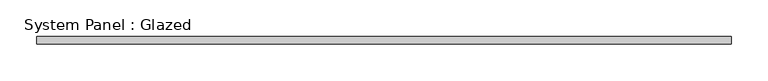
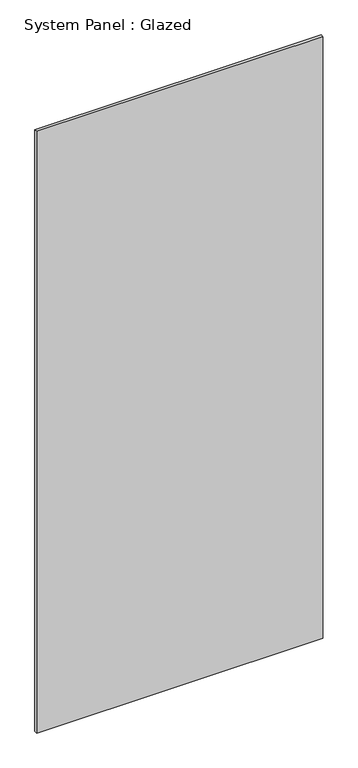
"""IFC4 building model written with IfcOpenShell, lengths in millimetres: plate geometry, System Panel : Glazed."""

from ifc_helpers import new_model, si_unit, origin, origin_with_axes, place, context, project, spatial, polyline, outline, extrude, source, transform, mapped, element, save


def system_panel_glazed_89c9b4f2(model_context):
    return source(origin(), model_context, "Body", "SweptSolid", [
        extrude(outline(polyline([(472.5, 0.0), (-472.5, 0.0), (-472.5, 10.0), (472.5, 10.0), (472.5, 0.0)])), origin_with_axes(), (0.0, 0.0, 1.0), 2100.0),
    ])


if __name__ == "__main__":
    model = new_model("IFC4")
    model_context = context("Model", 3, world=origin())
    ifc_project = project(units=[si_unit("LENGTHUNIT", "METRE", prefix="MILLI")], contexts=[model_context])
    site = spatial("IfcSite", under=ifc_project)
    building = spatial("IfcBuilding", under=site)
    placement = place(None, origin())
    system_panel_glazed_shape = system_panel_glazed_89c9b4f2(model_context)
    element("IfcPlate", 1, ObjectType="System Panel : Glazed", at=placement, inside=building, context=model_context, shape_type="MappedRepresentation", body=[
        mapped(system_panel_glazed_shape, transform((0.0, 0.0, 0.0), x_axis=(1.0, 0.0, 0.0), y_axis=(0.0, 1.0, 0.0), z_axis=(0.0, 0.0, 1.0))),
    ])
    save(model, "model.ifc")
